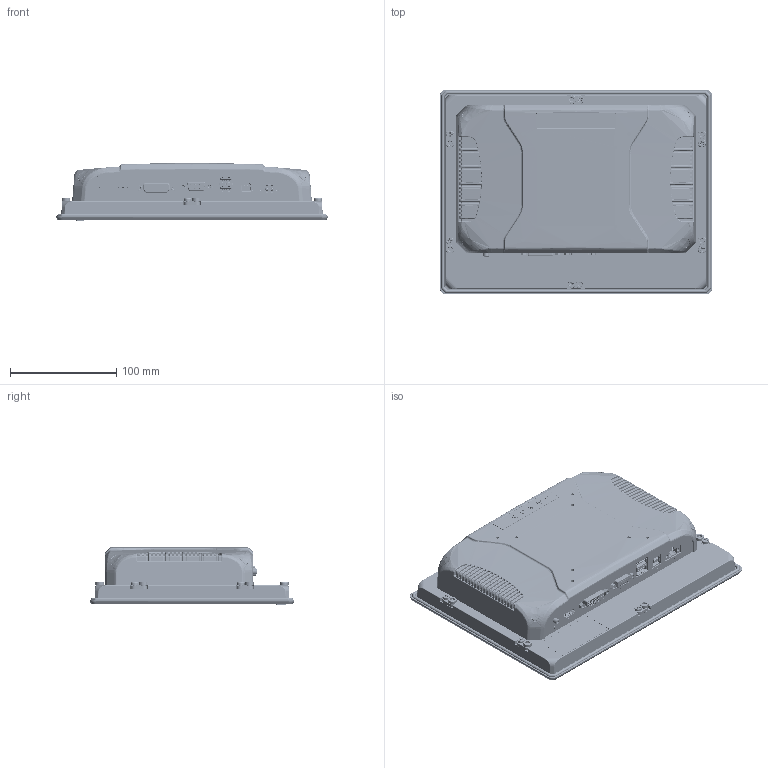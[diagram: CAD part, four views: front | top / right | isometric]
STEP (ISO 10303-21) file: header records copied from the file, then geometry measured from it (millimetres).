
FILE_DESCRIPTION (( 'STEP AP214' ), '1' );
FILE_NAME ('IDD22101-R2.STEP', '2024-05-10T02:47:09', ( '' ), ( '' ), 'SwSTEP 2.0', 'SolidWorks 2018', '' );
FILE_SCHEMA (( 'AUTOMOTIVE_DESIGN' ));
Length unit declared in the file: millimetre
Products named in the file (1): IDD22101-R2
Bounding box: 256.69 x 193.29 x 55.6 mm (x, y, z)
Volume: 709299.9 mm3; surface area: 663387 mm2
Topology: 123 solids, 129 shells, 11640 faces, 29052 edges, 17414 vertices
Faces by surface type: plane 4855, cylinder 3131, bspline 1991, torus 1019, sphere 361, cone 283
Full cylindrical faces by diameter (mm): 2.2 x10, 3.2 x10, 3.5 x2, 4 x1, 4.5 x6, 7 x2, 8 x4
Entity records: 534743 total; most frequent: CARTESIAN_POINT 142027, ORIENTED_EDGE 56932, DIRECTION 51923, EDGE_CURVE 28466, AXIS2_PLACEMENT_3D 18082, VERTEX_POINT 17398, LINE 15759, VECTOR 15759
